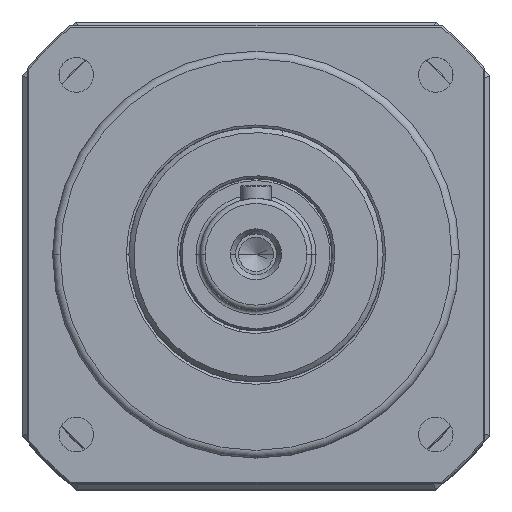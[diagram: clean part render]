
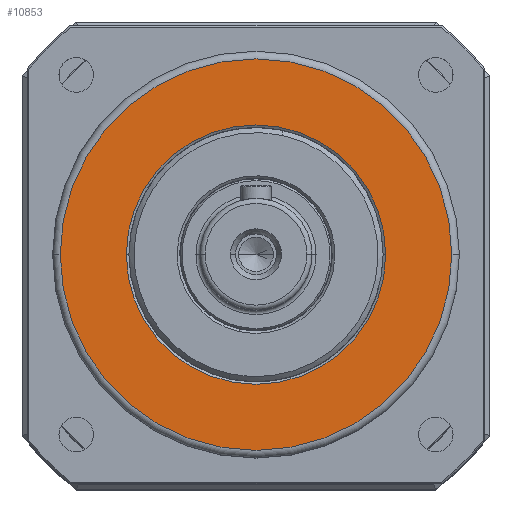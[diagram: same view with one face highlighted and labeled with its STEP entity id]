
A CAD part, top view. The second image highlights one B-rep face of the part: STEP entity #10853.
In plain terms, the highlighted planar face has unit normal (0, 0, 1).
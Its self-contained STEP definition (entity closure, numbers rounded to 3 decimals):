
#273 = DIRECTION ( 'NONE',  ( 0., 0., 1. ) ) ;
#305 = CARTESIAN_POINT ( 'NONE',  ( 0., 0., 10. ) ) ;
#1415 = AXIS2_PLACEMENT_3D ( 'NONE', #13195, #5631, #15986 ) ;
#1777 = FACE_OUTER_BOUND ( 'NONE', #12782, .T. ) ;
#1864 = DIRECTION ( 'NONE',  ( 0., 0., 1. ) ) ;
#2158 = AXIS2_PLACEMENT_3D ( 'NONE', #3055, #1864, #16570 ) ;
#2604 = CARTESIAN_POINT ( 'NONE',  ( -38.5, 0., 10. ) ) ;
#2694 = CARTESIAN_POINT ( 'NONE',  ( -25.5, 0., 10. ) ) ;
#3055 = CARTESIAN_POINT ( 'NONE',  ( 0., 0., 10. ) ) ;
#3511 = EDGE_LOOP ( 'NONE', ( #7497, #8890 ) ) ;
#3640 = CARTESIAN_POINT ( 'NONE',  ( 0., 0., 10. ) ) ;
#4715 = PLANE ( 'NONE',  #2158 ) ;
#5539 = AXIS2_PLACEMENT_3D ( 'NONE', #15098, #273, #8942 ) ;
#5631 = DIRECTION ( 'NONE',  ( 0., 0., 1. ) ) ;
#5800 = CIRCLE ( 'NONE', #5539, 38.5 ) ;
#6798 = CIRCLE ( 'NONE', #16731, 25.5 ) ;
#7342 = VERTEX_POINT ( 'NONE', #2604 ) ;
#7497 = ORIENTED_EDGE ( 'NONE', *, *, #8567, .T. ) ;
#7529 = VERTEX_POINT ( 'NONE', #2694 ) ;
#8567 = EDGE_CURVE ( 'NONE', #9647, #7529, #9435, .T. ) ;
#8615 = DIRECTION ( 'NONE',  ( 1., 0., 0. ) ) ;
#8848 = AXIS2_PLACEMENT_3D ( 'NONE', #305, #15133, #8615 ) ;
#8890 = ORIENTED_EDGE ( 'NONE', *, *, #14714, .T. ) ;
#8930 = CARTESIAN_POINT ( 'NONE',  ( 25.5, 0., 10. ) ) ;
#8942 = DIRECTION ( 'NONE',  ( 1., 0., 0. ) ) ;
#9114 = DIRECTION ( 'NONE',  ( 1., 0., 0. ) ) ;
#9435 = CIRCLE ( 'NONE', #8848, 25.5 ) ;
#9436 = VERTEX_POINT ( 'NONE', #9490 ) ;
#9490 = CARTESIAN_POINT ( 'NONE',  ( 38.5, 0., 10. ) ) ;
#9647 = VERTEX_POINT ( 'NONE', #8930 ) ;
#9725 = ORIENTED_EDGE ( 'NONE', *, *, #17094, .T. ) ;
#10755 = CIRCLE ( 'NONE', #1415, 38.5 ) ;
#10853 = ADVANCED_FACE ( 'NONE', ( #11354, #1777 ), #4715, .T. ) ;
#11354 = FACE_BOUND ( 'NONE', #3511, .T. ) ;
#12633 = ORIENTED_EDGE ( 'NONE', *, *, #14780, .T. ) ;
#12782 = EDGE_LOOP ( 'NONE', ( #12633, #9725 ) ) ;
#13195 = CARTESIAN_POINT ( 'NONE',  ( 0., 0., 10. ) ) ;
#14714 = EDGE_CURVE ( 'NONE', #7529, #9647, #6798, .T. ) ;
#14780 = EDGE_CURVE ( 'NONE', #9436, #7342, #10755, .T. ) ;
#14815 = DIRECTION ( 'NONE',  ( 0., 0., -1. ) ) ;
#15098 = CARTESIAN_POINT ( 'NONE',  ( 0., 0., 10. ) ) ;
#15133 = DIRECTION ( 'NONE',  ( 0., 0., -1. ) ) ;
#15986 = DIRECTION ( 'NONE',  ( 1., 0., 0. ) ) ;
#16570 = DIRECTION ( 'NONE',  ( 1., 0., 0. ) ) ;
#16731 = AXIS2_PLACEMENT_3D ( 'NONE', #3640, #14815, #9114 ) ;
#17094 = EDGE_CURVE ( 'NONE', #7342, #9436, #5800, .T. ) ;
